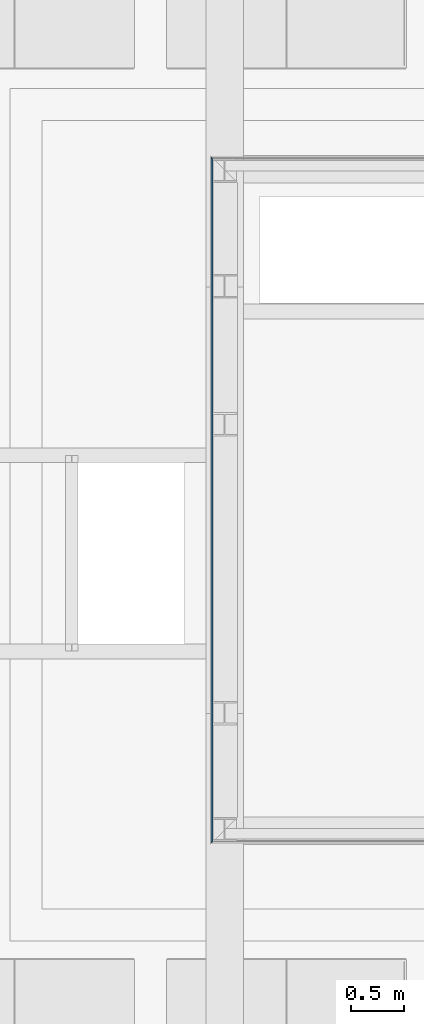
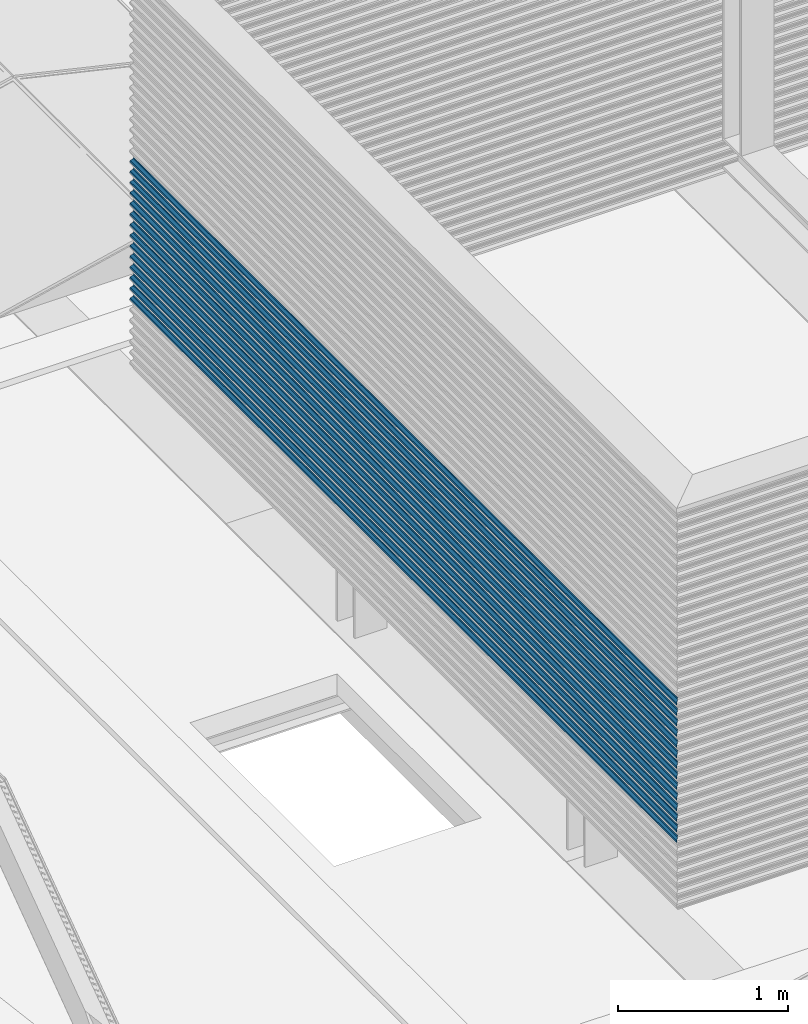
# One storey, part 26 of 63: 14 building element parts, 1 element without a shape of its own.
"""IFC2X3 building model written with IfcOpenShell, lengths in millimetres."""

from ifc_helpers import new_model, entity, si_unit, converted_unit, derived_unit, money_unit, direction, frame, origin_with_axes, place, context, subcontext, project, spatial, faceted_brep, material, type_object, element, aggregate, save


model = new_model("IFC2X3")

# Units and contexts
model_context = context("Model", 3, precision=0.01, world=origin_with_axes(), true_north=direction((0.0, 1.0)))
body_context = subcontext(model_context, "Body", "Model", "MODEL_VIEW")
ifc_project = project(units=[si_unit("LENGTHUNIT", "METRE", prefix="MILLI"), si_unit("AREAUNIT", "SQUARE_METRE"), si_unit("VOLUMEUNIT", "CUBIC_METRE"), converted_unit("PLANEANGLEUNIT", "DEGREE", entity("IfcPlaneAngleMeasure", 0.0174532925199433), si_unit("PLANEANGLEUNIT", "RADIAN"), dimensions=[0, 0, 0, 0, 0, 0, 0]), money_unit("EUR"), converted_unit("TIMEUNIT", "Year", entity("IfcTimeMeasure", 31557600.0), si_unit("TIMEUNIT", "SECOND"), dimensions=[0, 0, 1, 0, 0, 0, 0]), si_unit("MASSUNIT", "GRAM", prefix="KILO"), si_unit("THERMODYNAMICTEMPERATUREUNIT", "DEGREE_CELSIUS"), si_unit("LUMINOUSINTENSITYUNIT", "LUMEN"), si_unit("ENERGYUNIT", "JOULE", prefix="MEGA"), derived_unit("THERMALCONDUCTANCEUNIT", [(si_unit("POWERUNIT", "WATT"), 1), (si_unit("LENGTHUNIT", "METRE"), -1), (si_unit("THERMODYNAMICTEMPERATUREUNIT", "KELVIN"), -1)]), derived_unit("SPECIFICHEATCAPACITYUNIT", [(si_unit("ENERGYUNIT", "JOULE"), 1), (si_unit("MASSUNIT", "GRAM", prefix="KILO"), -1), (si_unit("THERMODYNAMICTEMPERATUREUNIT", "KELVIN"), -1)]), derived_unit("MASSDENSITYUNIT", [(si_unit("MASSUNIT", "GRAM", prefix="KILO"), 1), (si_unit("VOLUMEUNIT", "CUBIC_METRE"), -1)])], contexts=[model_context])

# Site, building, storey
site_placement = place(None, origin_with_axes())
site = spatial("IfcSite", under=ifc_project, at=site_placement, Name="<site naam>", CompositionType="ELEMENT")
building_placement = place(site_placement, origin_with_axes())
building = spatial("IfcBuilding", under=site, at=building_placement, Name="<Naam gebouw>", CompositionType="ELEMENT")
storey_placement = place(building_placement, frame((0.0, 0.0, 12770.0), z_axis=(0.0, 0.0, 1.0), x_axis=(1.0, 0.0, 0.0)))
storey = spatial("IfcBuildingStorey", under=building, at=storey_placement, Name="04 4e verdieping", CompositionType="ELEMENT", Elevation=12770.0)

# Wall, building element parts
wall_type = type_object("IfcWallType", Name="Gevelbeplating golf 18 x 2900", PredefinedType="NOTDEFINED")
wall_placement = place(storey_placement, frame((15871.99992141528, 13218.00009009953, 299.9552842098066), z_axis=(0.0, 0.0, 1.0), x_axis=(0.0, -1.0, 0.0)))
wall = element("IfcWall", 1, at=wall_placement, inside=storey, type_object=wall_type, Name="47_Binnenwand_Gevelbeplating")
ifc_material = material(Name="gevelafwerking type 3 - Aluminium RAL1036")
building_element_part_1_placement = place(wall_placement, origin_with_axes())
building_element_part_1 = element("IfcBuildingElementPart", 2, at=building_element_part_1_placement, material=ifc_material, Name="gevelafwerking type 3 - Aluminium RAL1036", context=body_context, shape_type="Brep", body=[
    faceted_brep([(15.62925096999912, 15.6292509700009, 521.315511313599), (17.99998809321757, 17.9999880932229, 532.0), (6418.000180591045, 17.9999880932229, 532.0), (6420.370917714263, 15.6292509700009, 521.315511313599), (17.99998809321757, 16.99998571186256, 532.0), (15.62925096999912, 14.54420958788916, 521.315511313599), (15.69999191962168, 14.77518518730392, 521.6343281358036), (6418.000180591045, 16.99998571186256, 532.0), (6420.370917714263, 14.54420958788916, 521.315511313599), (6420.30017676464, 14.77518518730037, 521.6343281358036), (9.041571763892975, 9.041571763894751, 512.5758788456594), (6426.958596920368, 9.041571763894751, 512.5758788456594), (9.041571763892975, 8.209525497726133, 512.5758788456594), (9.398124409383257, 8.555240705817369, 513.0489041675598), (6426.602044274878, 8.555240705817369, 513.0489041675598), (6426.958596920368, 8.209525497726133, 512.5758788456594), (3.11646648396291, 3.116466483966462, 504.1123255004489), (6432.8837022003, 3.116466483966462, 504.1123255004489), (3.11646648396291, 2.188213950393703, 504.1123255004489), (3.340125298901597, 2.257346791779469, 504.4318047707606), (6432.66004338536, 2.257346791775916, 504.4318047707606), (6432.8837022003, 2.188213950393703, 504.1123255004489), (0.9999880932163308, 0.9999880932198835, 493.9999999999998), (6435.000180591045, 0.9999880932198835, 493.9999999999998), (0.9999880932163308, -1.190678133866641e-05, 493.9999999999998), (6435.000180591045, -1.190678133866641e-05, 493.9999999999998)], [[[0, 1, 2, 3]], [[4, 1, 0, 5, 6]], [[1, 4, 7, 2]], [[8, 3, 2, 7, 9]], [[10, 0, 3, 11]], [[0, 10, 12, 13, 5]], [[5, 13, 14, 8, 9, 6]], [[4, 6, 9, 7]], [[15, 11, 3, 8, 14]], [[16, 10, 11, 17]], [[10, 16, 18, 19, 12]], [[12, 19, 20, 15, 14, 13]], [[21, 17, 11, 15, 20]], [[22, 16, 17, 23]], [[16, 22, 24, 18]], [[18, 24, 25, 21, 20, 19]], [[25, 23, 17, 21]], [[24, 22, 23, 25]]]),
])
building_element_part_2_placement = place(wall_placement, origin_with_axes())
building_element_part_2 = element("IfcBuildingElementPart", 3, at=building_element_part_2_placement, material=ifc_material, Name="gevelafwerking type 3 - Aluminium RAL1036", context=body_context, shape_type="Brep", body=[
    faceted_brep([(15.62924858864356, 15.62924858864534, 597.3155113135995), (17.99998571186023, 17.99998571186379, 608.0000000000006), (6418.000182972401, 17.99998571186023, 608.0000000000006), (6420.370920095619, 15.62924858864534, 597.3155113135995), (17.99998571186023, 16.99998333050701, 608.0000000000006), (15.62924858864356, 14.54421908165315, 597.3155113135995), (15.69998590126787, 14.77518280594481, 597.6343117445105), (6418.000182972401, 16.99998333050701, 608.0000000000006), (6420.300182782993, 14.77518280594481, 597.6343117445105), (6420.370920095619, 14.54421908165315, 597.3155113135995), (9.041569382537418, 9.041569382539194, 588.5758788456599), (6426.958599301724, 9.041569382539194, 588.5758788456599), (9.041569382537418, 8.20953509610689, 588.5758788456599), (9.398109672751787, 8.555238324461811, 589.0488877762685), (6426.602059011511, 8.555238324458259, 589.0488877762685), (6426.958599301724, 8.20953509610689, 588.5758788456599), (3.116464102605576, 3.116464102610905, 580.1123255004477), (6432.883704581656, 3.116464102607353, 580.1123255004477), (3.116464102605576, 2.188215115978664, 580.1123255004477), (3.340111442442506, 2.257344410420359, 580.4317883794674), (6432.660057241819, 2.257344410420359, 580.4317883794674), (6432.883704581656, 2.188215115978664, 580.1123255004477), (0.9999857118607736, 0.9999857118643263, 570.0000000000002), (6435.000182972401, 0.9999857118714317, 570.0000000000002), (0.9999857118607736, -1.428813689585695e-05, 570.0000000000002), (6435.000182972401, -1.428813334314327e-05, 570.0000000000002)], [[[0, 1, 2, 3]], [[4, 1, 0, 5, 6]], [[1, 4, 7, 2]], [[3, 2, 7, 8, 9]], [[10, 0, 3, 11]], [[0, 10, 12, 13, 5]], [[5, 13, 14, 9, 8, 6]], [[4, 6, 8, 7]], [[11, 3, 9, 14, 15]], [[16, 10, 11, 17]], [[10, 16, 18, 19, 12]], [[12, 19, 20, 15, 14, 13]], [[17, 11, 15, 20, 21]], [[22, 16, 17, 23]], [[16, 22, 24, 18]], [[18, 24, 25, 21, 20, 19]], [[23, 17, 21, 25]], [[24, 22, 23, 25]]]),
])
building_element_part_3_placement = place(wall_placement, origin_with_axes())
building_element_part_3 = element("IfcBuildingElementPart", 4, at=building_element_part_3_placement, material=ifc_material, Name="gevelafwerking type 3 - Aluminium RAL1036", context=body_context, shape_type="Brep", body=[
    faceted_brep([(15.62924382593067, 15.62924382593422, 749.3155113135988), (17.99998094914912, 17.99998094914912, 759.9999999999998), (6418.000187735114, 17.99998094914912, 759.9999999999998), (6420.370924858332, 15.62924382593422, 749.3155113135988), (17.99998094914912, 16.99997856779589, 759.9999999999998), (15.62924382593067, 14.54420676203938, 749.3155113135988), (15.6999834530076, 14.77517804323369, 749.6343221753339), (6418.000187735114, 16.99997856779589, 759.9999999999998), (6420.300185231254, 14.77517804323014, 749.6343221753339), (6420.370924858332, 14.54420676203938, 749.3155113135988), (9.041564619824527, 9.04156461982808, 740.5758788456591), (6426.958604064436, 9.04156461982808, 740.5758788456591), (9.041564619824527, 8.209522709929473, 740.5758788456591), (9.398112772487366, 8.555233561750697, 741.0488982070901), (6426.602055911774, 8.555233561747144, 741.0488982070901), (6426.958604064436, 8.209522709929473, 740.5758788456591), (3.116459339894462, 3.116459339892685, 732.1123255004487), (6432.883709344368, 3.116459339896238, 732.1123255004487), (3.116459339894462, 2.188208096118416, 732.1123255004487), (3.340113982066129, 2.257339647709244, 732.4317988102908), (6432.660054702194, 2.257339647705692, 732.4317988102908), (6432.883709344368, 2.188208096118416, 732.1123255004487), (0.9999809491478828, 0.9999809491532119, 721.9999999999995), (6435.000187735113, 0.9999809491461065, 721.9999999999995), (0.9999809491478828, -1.905084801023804e-05, 721.9999999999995), (6435.000187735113, -1.905085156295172e-05, 721.9999999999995)], [[[0, 1, 2, 3]], [[4, 1, 0, 5, 6]], [[1, 4, 7, 2]], [[3, 2, 7, 8, 9]], [[10, 0, 3, 11]], [[0, 10, 12, 13, 5]], [[5, 13, 14, 9, 8, 6]], [[4, 6, 8, 7]], [[11, 3, 9, 14, 15]], [[16, 10, 11, 17]], [[10, 16, 18, 19, 12]], [[12, 19, 20, 15, 14, 13]], [[17, 11, 15, 20, 21]], [[22, 16, 17, 23]], [[16, 22, 24, 18]], [[18, 24, 25, 21, 20, 19]], [[23, 17, 21, 25]], [[24, 22, 23, 25]]]),
])
building_element_part_4_placement = place(wall_placement, origin_with_axes())
building_element_part_4 = element("IfcBuildingElementPart", 5, at=building_element_part_4_placement, material=ifc_material, Name="gevelafwerking type 3 - Aluminium RAL1036", context=body_context, shape_type="Brep", body=[
    faceted_brep([(15.62924144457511, 15.62924144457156, 825.3155113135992), (17.99997856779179, 17.99997856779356, 836.0000000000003), (6418.00019011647, 17.99997856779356, 836.0000000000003), (6420.370927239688, 15.62924144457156, 825.3155113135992), (17.99997856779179, 16.99997618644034, 836.0000000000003), (15.62924144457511, 14.54421625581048, 825.3155113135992), (15.69997743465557, 14.77517566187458, 825.6343057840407), (6418.00019011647, 16.99997618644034, 836.0000000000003), (6420.300191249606, 14.77517566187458, 825.6343057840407), (6420.370927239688, 14.54421625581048, 825.3155113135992), (9.04156223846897, 9.041562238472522, 816.5758788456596), (6426.958606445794, 9.041562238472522, 816.5758788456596), (9.04156223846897, 8.209532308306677, 816.5758788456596), (9.398098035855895, 8.555231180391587, 817.048881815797), (6426.602070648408, 8.555231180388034, 817.048881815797), (6426.958606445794, 8.209532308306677, 816.5758788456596), (3.116456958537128, 3.116456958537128, 808.1123255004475), (6432.883711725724, 3.116456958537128, 808.1123255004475), (3.116456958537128, 2.188209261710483, 808.1123255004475), (3.340100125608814, 2.257337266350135, 808.4317824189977), (6432.660068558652, 2.257337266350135, 808.4317824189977), (6432.883711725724, 2.188209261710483, 808.1123255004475), (0.9999785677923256, 0.9999785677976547, 798.0), (6435.00019011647, 0.9999785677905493, 798.0), (0.9999785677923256, -2.143220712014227e-05, 798.0), (6435.00019011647, -2.143220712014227e-05, 798.0)], [[[0, 1, 2, 3]], [[4, 1, 0, 5, 6]], [[1, 4, 7, 2]], [[3, 2, 7, 8, 9]], [[10, 0, 3, 11]], [[0, 10, 12, 13, 5]], [[5, 13, 14, 9, 8, 6]], [[4, 6, 8, 7]], [[11, 3, 9, 14, 15]], [[16, 10, 11, 17]], [[10, 16, 18, 19, 12]], [[12, 19, 20, 15, 14, 13]], [[17, 11, 15, 20, 21]], [[22, 16, 17, 23]], [[16, 22, 24, 18]], [[18, 24, 25, 21, 20, 19]], [[23, 17, 21, 25]], [[24, 22, 23, 25]]]),
])
building_element_part_5_placement = place(wall_placement, origin_with_axes())
building_element_part_5 = element("IfcBuildingElementPart", 6, at=building_element_part_5_placement, material=ifc_material, Name="gevelafwerking type 3 - Aluminium RAL1036", context=body_context, shape_type="Brep", body=[
    faceted_brep([(15.62924620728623, 15.62924620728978, 673.3155113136), (17.99998333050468, 17.99998333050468, 683.9999999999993), (6418.000185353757, 17.99998333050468, 683.9999999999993), (6420.370922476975, 15.62924620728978, 673.3155113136), (17.99998333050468, 16.99998094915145, 683.9999999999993), (15.62924620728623, 14.54422857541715, 673.3155113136), (15.6999798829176, 14.77518042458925, 673.6342953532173), (6418.000185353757, 16.99998094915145, 683.9999999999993), (6420.370922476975, 14.54422857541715, 673.3155113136), (6420.300188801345, 14.77518042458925, 673.6342953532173), (9.04156700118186, 9.041567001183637, 664.5758788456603), (6426.958601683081, 9.041567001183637, 664.5758788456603), (9.04156700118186, 8.209544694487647, 664.5758788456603), (9.398094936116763, 8.555235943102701, 665.0488713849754), (6426.602073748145, 8.555235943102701, 665.0488713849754), (6426.958601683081, 8.209544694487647, 664.5758788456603), (3.116461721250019, 3.116461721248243, 656.1123255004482), (6432.883706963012, 3.116461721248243, 656.1123255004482), (3.116461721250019, 2.188216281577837, 656.1123255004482), (3.340097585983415, 2.257342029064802, 656.4317719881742), (6432.660071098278, 2.257342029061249, 656.4317719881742), (6432.883706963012, 2.188216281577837, 656.1123255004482), (0.9999833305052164, 0.9999833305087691, 645.999999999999), (6435.000185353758, 0.9999833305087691, 645.999999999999), (0.9999833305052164, -1.66694924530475e-05, 645.999999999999), (6435.000185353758, -1.666949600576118e-05, 645.999999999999)], [[[0, 1, 2, 3]], [[4, 1, 0, 5, 6]], [[1, 4, 7, 2]], [[8, 3, 2, 7, 9]], [[10, 0, 3, 11]], [[0, 10, 12, 13, 5]], [[5, 13, 14, 8, 9, 6]], [[4, 6, 9, 7]], [[15, 11, 3, 8, 14]], [[16, 10, 11, 17]], [[10, 16, 18, 19, 12]], [[12, 19, 20, 15, 14, 13]], [[21, 17, 11, 15, 20]], [[22, 16, 17, 23]], [[16, 22, 24, 18]], [[18, 24, 25, 21, 20, 19]], [[25, 23, 17, 21]], [[24, 22, 23, 25]]]),
])
building_element_part_6_placement = place(wall_placement, origin_with_axes())
building_element_part_6 = element("IfcBuildingElementPart", 7, at=building_element_part_6_placement, material=ifc_material, Name="gevelafwerking type 3 - Aluminium RAL1036", context=body_context, shape_type="Brep", body=[
    faceted_brep([(15.62923430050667, 15.62923430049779, 1053.315511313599), (17.99997142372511, 17.99997142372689, 1064.0), (6418.000197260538, 17.99997142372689, 1064.0), (6420.370934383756, 15.62923430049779, 1053.315511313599), (17.99997142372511, 16.99996904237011, 1064.0), (15.62923430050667, 14.54421342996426, 1053.315511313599), (15.69996896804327, 14.77516851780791, 1053.634299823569), (6418.000197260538, 16.99996904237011, 1064.0), (6420.370934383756, 14.54421342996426, 1053.315511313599), (6420.300199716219, 14.77516851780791, 1053.634299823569), (9.041555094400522, 9.041555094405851, 1044.575878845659), (6426.958613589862, 9.041555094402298, 1044.575878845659), (9.041555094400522, 8.209529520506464, 1044.575878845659), (9.398086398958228, 8.555224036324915, 1045.048875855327), (6426.602082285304, 8.555224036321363, 1045.048875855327), (6426.958613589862, 8.209529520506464, 1044.575878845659), (3.11644981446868, 3.116449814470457, 1036.112325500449), (6432.883718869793, 3.116449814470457, 1036.112325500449), (3.11644981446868, 2.188203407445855, 1036.112325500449), (3.340088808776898, 2.257330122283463, 1036.431776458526), (6432.660079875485, 2.257330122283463, 1036.431776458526), (6432.883718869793, 2.188203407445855, 1036.112325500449), (0.9999714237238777, 0.9999714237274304, 1026.0), (6435.000197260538, 0.9999714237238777, 1026.0), (0.9999714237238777, -2.85762737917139e-05, 1026.0), (6435.000197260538, -2.85762737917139e-05, 1026.0)], [[[0, 1, 2, 3]], [[4, 1, 0, 5, 6]], [[1, 4, 7, 2]], [[8, 3, 2, 7, 9]], [[10, 0, 3, 11]], [[0, 10, 12, 13, 5]], [[5, 13, 14, 8, 9, 6]], [[4, 6, 9, 7]], [[15, 11, 3, 8, 14]], [[16, 10, 11, 17]], [[10, 16, 18, 19, 12]], [[12, 19, 20, 15, 14, 13]], [[21, 17, 11, 15, 20]], [[22, 16, 17, 23]], [[16, 22, 24, 18]], [[18, 24, 25, 21, 20, 19]], [[25, 23, 17, 21]], [[24, 22, 23, 25]]]),
])
building_element_part_7_placement = place(wall_placement, origin_with_axes())
building_element_part_7 = element("IfcBuildingElementPart", 8, at=building_element_part_7_placement, material=ifc_material, Name="gevelafwerking type 3 - Aluminium RAL1036", context=body_context, shape_type="Brep", body=[
    faceted_brep([(15.62923668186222, 15.629236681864, 977.3155113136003), (17.99997380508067, 17.99997380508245, 987.9999999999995), (6418.000194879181, 17.99997380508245, 987.9999999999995), (6420.3709320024, 15.62923668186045, 977.3155113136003), (17.99997380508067, 16.99997142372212, 987.9999999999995), (15.62923668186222, 14.54420393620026, 977.3155113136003), (15.69997498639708, 14.77517089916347, 977.6343162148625), (6418.000194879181, 16.99997142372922, 987.9999999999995), (6420.300193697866, 14.77517089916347, 977.6343162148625), (6420.3709320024, 14.54420393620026, 977.3155113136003), (9.041557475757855, 9.041557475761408, 968.5758788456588), (6426.958611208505, 9.041557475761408, 968.5758788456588), (9.041557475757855, 8.209519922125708, 968.5758788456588), (9.398101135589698, 8.55522641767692, 969.0488922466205), (6426.602067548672, 8.55522641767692, 969.0488922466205), (6426.958611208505, 8.209519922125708, 968.5758788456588), (3.116452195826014, 3.116452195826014, 960.1123255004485), (6432.883716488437, 3.116452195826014, 960.1123255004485), (3.116452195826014, 2.188202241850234, 960.1123255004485), (3.340102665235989, 2.25733250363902, 960.4317928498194), (6432.660066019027, 2.25733250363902, 960.4317928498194), (6432.883716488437, 2.188202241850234, 960.1123255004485), (0.9999738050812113, 0.9999738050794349, 949.9999999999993), (6435.000194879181, 0.9999738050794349, 949.9999999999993), (0.9999738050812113, -2.619491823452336e-05, 949.9999999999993), (6435.000194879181, -2.619491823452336e-05, 949.9999999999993)], [[[0, 1, 2, 3]], [[4, 1, 0, 5, 6]], [[1, 4, 7, 2]], [[3, 2, 7, 8, 9]], [[10, 0, 3, 11]], [[0, 10, 12, 13, 5]], [[5, 13, 14, 9, 8, 6]], [[4, 6, 8, 7]], [[11, 3, 9, 14, 15]], [[16, 10, 11, 17]], [[10, 16, 18, 19, 12]], [[12, 19, 20, 15, 14, 13]], [[17, 11, 15, 20, 21]], [[22, 16, 17, 23]], [[16, 22, 24, 18]], [[18, 24, 25, 21, 20, 19]], [[23, 17, 21, 25]], [[24, 22, 23, 25]]]),
])
building_element_part_8_placement = place(wall_placement, origin_with_axes())
building_element_part_8 = element("IfcBuildingElementPart", 9, at=building_element_part_8_placement, material=ifc_material, Name="gevelafwerking type 3 - Aluminium RAL1036", context=body_context, shape_type="Brep", body=[
    faceted_brep([(15.62923191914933, 15.62923191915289, 1205.3155113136), (17.99996904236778, 17.99996904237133, 1215.999999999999), (6418.000199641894, 17.99996904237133, 1215.999999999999), (6420.370936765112, 15.62923191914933, 1205.3155113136), (17.99996904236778, 16.99996666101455, 1215.999999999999), (15.62923191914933, 14.5442034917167, 1205.3155113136), (15.69996890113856, 14.77516613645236, 1205.634310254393), (6418.000199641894, 16.99996666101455, 1215.999999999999), (6420.300199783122, 14.77516613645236, 1205.634310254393), (6420.370936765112, 14.54420349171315, 1205.3155113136), (9.041552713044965, 9.041552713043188, 1196.575878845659), (6426.958615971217, 9.041552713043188, 1196.575878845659), (9.041552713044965, 8.2095195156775, 1196.575878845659), (9.39809188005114, 8.555221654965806, 1197.048886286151), (6426.602076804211, 8.555221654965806, 1197.048886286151), (6426.958615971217, 8.2095195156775, 1196.575878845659), (3.116447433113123, 3.116447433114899, 1188.112325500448), (6432.883721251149, 3.116447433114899, 1188.112325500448), (3.116447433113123, 2.188198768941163, 1188.112325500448), (3.34009372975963, 2.257327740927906, 1188.43178688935), (6432.660074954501, 2.257327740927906, 1188.43178688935), (6432.883721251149, 2.188198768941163, 1188.112325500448), (0.9999690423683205, 0.9999690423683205, 1177.999999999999), (6435.000199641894, 0.9999690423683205, 1177.999999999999), (0.9999690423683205, -3.095762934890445e-05, 1177.999999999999), (6435.000199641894, -3.095762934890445e-05, 1177.999999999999)], [[[0, 1, 2, 3]], [[4, 1, 0, 5, 6]], [[1, 4, 7, 2]], [[3, 2, 7, 8, 9]], [[10, 0, 3, 11]], [[0, 10, 12, 13, 5]], [[5, 13, 14, 9, 8, 6]], [[4, 6, 8, 7]], [[11, 3, 9, 14, 15]], [[16, 10, 11, 17]], [[10, 16, 18, 19, 12]], [[12, 19, 20, 15, 14, 13]], [[17, 11, 15, 20, 21]], [[22, 16, 17, 23]], [[16, 22, 24, 18]], [[18, 24, 25, 21, 20, 19]], [[23, 17, 21, 25]], [[24, 22, 23, 25]]]),
])
building_element_part_9_placement = place(wall_placement, origin_with_axes())
building_element_part_9 = element("IfcBuildingElementPart", 10, at=building_element_part_9_placement, material=ifc_material, Name="gevelafwerking type 3 - Aluminium RAL1036", context=body_context, shape_type="Brep", body=[
    faceted_brep([(15.62923191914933, 15.62923191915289, 1129.315511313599), (17.99996904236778, 17.99996904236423, 1139.999999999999), (6418.000199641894, 17.99996904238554, 1139.999999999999), (6420.370936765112, 15.62923191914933, 1129.315511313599), (17.99996904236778, 16.999966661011, 1139.999999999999), (15.62923191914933, 14.54419161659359, 1129.315511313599), (15.69997253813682, 14.77516613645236, 1129.634326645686), (6418.000199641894, 16.99996666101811, 1139.999999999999), (6420.300196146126, 14.77516613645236, 1129.634326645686), (6420.370936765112, 14.54419161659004, 1129.315511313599), (9.041552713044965, 9.041552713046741, 1120.57587884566), (6426.958615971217, 9.041552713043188, 1120.57587884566), (9.041552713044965, 8.209507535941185, 1120.57587884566), (9.398104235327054, 8.555221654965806, 1121.048902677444), (6426.602064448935, 8.555221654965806, 1121.048902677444), (6426.958615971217, 8.209507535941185, 1120.57587884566), (3.116447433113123, 3.116447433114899, 1112.112325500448), (6432.883721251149, 3.116447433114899, 1112.112325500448), (3.116447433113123, 2.188195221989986, 1112.112325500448), (3.340105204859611, 2.257327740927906, 1112.431803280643), (6432.660063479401, 2.257327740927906, 1112.431803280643), (6432.883721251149, 2.188195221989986, 1112.112325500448), (0.9999690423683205, 0.9999690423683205, 1102.0), (6435.000199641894, 0.9999690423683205, 1102.0), (0.9999690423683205, -3.095762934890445e-05, 1102.0), (6435.000199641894, -3.095762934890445e-05, 1102.0)], [[[0, 1, 2, 3]], [[4, 1, 0, 5, 6]], [[1, 4, 7, 2]], [[3, 2, 7, 8, 9]], [[10, 0, 3, 11]], [[0, 10, 12, 13, 5]], [[5, 13, 14, 9, 8, 6]], [[4, 6, 8, 7]], [[11, 3, 9, 14, 15]], [[16, 10, 11, 17]], [[10, 16, 18, 19, 12]], [[12, 19, 20, 15, 14, 13]], [[17, 11, 15, 20, 21]], [[22, 16, 17, 23]], [[16, 22, 24, 18]], [[18, 24, 25, 21, 20, 19]], [[23, 17, 21, 25]], [[24, 22, 23, 25]]]),
])
building_element_part_10_placement = place(wall_placement, origin_with_axes())
building_element_part_10 = element("IfcBuildingElementPart", 11, at=building_element_part_10_placement, material=ifc_material, Name="gevelafwerking type 3 - Aluminium RAL1036", context=body_context, shape_type="Brep", body=[
    faceted_brep([(15.62922953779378, 15.62922953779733, 1281.315511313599), (17.99996666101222, 17.99996666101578, 1292.0), (6418.00020202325, 17.99996666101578, 1292.0), (6420.370939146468, 15.62922953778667, 1281.315511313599), (17.99996666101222, 16.999964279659, 1292.0), (15.62922953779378, 14.5442129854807, 1281.315511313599), (15.6999628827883, 14.7751637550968, 1281.6342938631), (6418.00020202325, 16.99996427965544, 1292.0), (6420.370939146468, 14.5442129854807, 1281.315511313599), (6420.300205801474, 14.7751637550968, 1281.6342938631), (9.041550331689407, 9.041550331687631, 1272.575878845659), (6426.958618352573, 9.041550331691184, 1272.575878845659), (9.041550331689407, 8.209497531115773, 1272.575878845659), (9.398109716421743, 8.555219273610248, 1273.048913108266), (6426.602058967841, 8.555219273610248, 1273.048913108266), (6426.958618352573, 8.209497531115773, 1272.575878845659), (3.116445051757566, 3.116445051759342, 1264.112325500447), (6432.883723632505, 3.116445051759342, 1264.112325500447), (3.116445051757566, 2.18819993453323, 1264.112325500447), (3.340079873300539, 2.257325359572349, 1264.431770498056), (6432.660088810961, 2.257325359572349, 1264.431770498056), (6432.883723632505, 2.18819993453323, 1264.112325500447), (0.9999666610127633, 0.9999666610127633, 1254.0), (6435.00020202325, 0.9999666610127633, 1254.0), (0.9999666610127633, -3.333898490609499e-05, 1254.0), (6435.00020202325, -3.333898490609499e-05, 1254.0)], [[[0, 1, 2, 3]], [[4, 1, 0, 5, 6]], [[1, 4, 7, 2]], [[8, 3, 2, 7, 9]], [[10, 0, 3, 11]], [[0, 10, 12, 13, 5]], [[5, 13, 14, 8, 9, 6]], [[4, 6, 9, 7]], [[15, 11, 3, 8, 14]], [[16, 10, 11, 17]], [[10, 16, 18, 19, 12]], [[12, 19, 20, 15, 14, 13]], [[21, 17, 11, 15, 20]], [[22, 16, 17, 23]], [[16, 22, 24, 18]], [[18, 24, 25, 21, 20, 19]], [[25, 23, 17, 21]], [[24, 22, 23, 25]]]),
])
building_element_part_11_placement = place(wall_placement, origin_with_axes())
building_element_part_11 = element("IfcBuildingElementPart", 12, at=building_element_part_11_placement, material=ifc_material, Name="gevelafwerking type 3 - Aluminium RAL1036", context=body_context, shape_type="Brep", body=[
    faceted_brep([(15.62923906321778, 15.62923906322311, 901.3155113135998), (17.99997618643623, 17.999976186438, 911.9999999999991), (6418.000192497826, 17.999976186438, 911.9999999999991), (6420.370929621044, 15.6292390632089, 901.3155113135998), (17.99997618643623, 16.99997380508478, 911.9999999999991), (15.62923906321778, 14.54419444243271, 901.3155113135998), (15.69998100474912, 14.77517328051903, 901.6343326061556), (6418.000192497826, 16.99997380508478, 911.9999999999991), (6420.300187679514, 14.77517328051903, 901.6343326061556), (6420.370929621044, 14.54419444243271, 901.3155113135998), (9.041559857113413, 9.041559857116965, 892.5758788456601), (6426.958608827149, 9.041559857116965, 892.5758788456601), (9.041559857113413, 8.209510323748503, 892.5758788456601), (9.398115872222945, 8.55522879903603, 893.0489086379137), (6426.602052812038, 8.55522879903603, 893.0489086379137), (6426.958608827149, 8.209510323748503, 892.5758788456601), (3.116454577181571, 3.116454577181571, 884.1123255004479), (6432.883714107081, 3.116454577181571, 884.1123255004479), (3.116454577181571, 2.188201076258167, 884.1123255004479), (3.340116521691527, 2.257334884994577, 884.4318092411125), (6432.660052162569, 2.257334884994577, 884.4318092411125), (6432.883714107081, 2.188201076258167, 884.1123255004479), (0.9999761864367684, 0.9999761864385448, 874.0000000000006), (6435.000192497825, 0.9999761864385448, 874.0000000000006), (0.9999761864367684, -2.381356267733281e-05, 874.0000000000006), (6435.000192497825, -2.381356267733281e-05, 874.0000000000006)], [[[0, 1, 2, 3]], [[4, 1, 0, 5, 6]], [[1, 4, 7, 2]], [[3, 2, 7, 8, 9]], [[10, 0, 3, 11]], [[0, 10, 12, 13, 5]], [[5, 13, 14, 9, 8, 6]], [[4, 6, 8, 7]], [[11, 3, 9, 14, 15]], [[16, 10, 11, 17]], [[10, 16, 18, 19, 12]], [[12, 19, 20, 15, 14, 13]], [[17, 11, 15, 20, 21]], [[22, 16, 17, 23]], [[16, 22, 24, 18]], [[18, 24, 25, 21, 20, 19]], [[23, 17, 21, 25]], [[24, 22, 23, 25]]]),
])
building_element_part_12_placement = place(wall_placement, origin_with_axes())
building_element_part_12 = element("IfcBuildingElementPart", 13, at=building_element_part_12_placement, material=ifc_material, Name="gevelafwerking type 3 - Aluminium RAL1036", context=body_context, shape_type="Brep", body=[
    faceted_brep([(15.62922477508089, 15.62922477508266, 1433.3155113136), (17.99996189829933, 17.99996189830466, 1443.999999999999), (6418.000206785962, 17.99996189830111, 1443.999999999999), (6420.37094390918, 15.62922477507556, 1433.3155113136), (17.99996189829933, 16.99995951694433, 1443.999999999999), (15.62922477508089, 14.54420066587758, 1433.3155113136), (15.69996043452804, 14.77515899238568, 1433.634304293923), (6418.000206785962, 16.99995951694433, 1443.999999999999), (6420.300208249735, 14.77515899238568, 1433.634304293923), (6420.37094390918, 14.54420066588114, 1433.3155113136), (9.041545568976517, 9.041545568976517, 1424.575878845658), (6426.958623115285, 9.041545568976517, 1424.575878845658), (9.041545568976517, 8.209516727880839, 1424.575878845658), (9.398080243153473, 8.555214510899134, 1425.048880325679), (6426.602088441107, 8.555214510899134, 1425.048880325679), (6426.958623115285, 8.209516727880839, 1424.575878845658), (3.116440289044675, 3.116440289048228, 1416.112325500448), (6432.883728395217, 3.116440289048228, 1416.112325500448), (3.116440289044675, 2.188192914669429, 1416.112325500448), (3.340082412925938, 2.257320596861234, 1416.43178092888), (6432.660086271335, 2.257320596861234, 1416.43178092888), (6432.883728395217, 2.188192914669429, 1416.112325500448), (0.9999618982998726, 0.9999618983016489, 1406.000000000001), (6435.000206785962, 0.9999618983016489, 1406.000000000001), (0.9999618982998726, -3.810169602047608e-05, 1406.000000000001), (6435.000206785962, -3.810169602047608e-05, 1406.000000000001)], [[[0, 1, 2, 3]], [[4, 1, 0, 5, 6]], [[1, 4, 7, 2]], [[3, 2, 7, 8, 9]], [[10, 0, 3, 11]], [[0, 10, 12, 13, 5]], [[5, 13, 14, 9, 8, 6]], [[4, 6, 8, 7]], [[11, 3, 9, 14, 15]], [[16, 10, 11, 17]], [[10, 16, 18, 19, 12]], [[12, 19, 20, 15, 14, 13]], [[17, 11, 15, 20, 21]], [[22, 16, 17, 23]], [[16, 22, 24, 18]], [[18, 24, 25, 21, 20, 19]], [[23, 17, 21, 25]], [[24, 22, 23, 25]]]),
])
building_element_part_13_placement = place(wall_placement, origin_with_axes())
building_element_part_13 = element("IfcBuildingElementPart", 14, at=building_element_part_13_placement, material=ifc_material, Name="gevelafwerking type 3 - Aluminium RAL1036", context=body_context, shape_type="Brep", body=[
    faceted_brep([(15.62922239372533, 15.6292223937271, 1509.315511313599), (17.99995951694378, 17.999959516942, 1520.0), (6418.000209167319, 17.999959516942, 1520.0), (6420.370946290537, 15.6292223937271, 1509.315511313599), (17.99995951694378, 16.99995713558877, 1520.0), (15.62922239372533, 14.54417885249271, 1509.315511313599), (15.69996400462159, 14.77515661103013, 1509.634331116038), (6418.000209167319, 16.99995713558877, 1520.0), (6420.370946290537, 14.54417885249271, 1509.315511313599), (6420.300204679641, 14.77515661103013, 1509.634331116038), (9.04154318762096, 9.04154318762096, 1500.575878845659), (6426.958625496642, 9.04154318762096, 1500.575878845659), (9.04154318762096, 8.20949474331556, 1500.575878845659), (9.398098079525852, 8.555212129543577, 1501.048907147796), (6426.602070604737, 8.555212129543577, 1501.048907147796), (6426.958625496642, 8.20949474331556, 1500.575878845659), (3.116437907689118, 3.116437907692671, 1492.112325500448), (6432.883730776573, 3.116437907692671, 1492.112325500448), (3.116437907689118, 2.188184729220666, 1492.112325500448), (3.340098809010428, 2.257318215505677, 1492.431807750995), (6432.660069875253, 2.257318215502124, 1492.431807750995), (6432.883730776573, 2.188184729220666, 1492.112325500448), (0.9999595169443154, 0.9999595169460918, 1481.999999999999), (6435.000209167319, 0.9999595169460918, 1481.999999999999), (0.9999595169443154, -4.048305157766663e-05, 1481.999999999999), (6435.000209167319, -4.048305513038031e-05, 1481.999999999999)], [[[0, 1, 2, 3]], [[4, 1, 0, 5, 6]], [[1, 4, 7, 2]], [[8, 3, 2, 7, 9]], [[10, 0, 3, 11]], [[0, 10, 12, 13, 5]], [[5, 13, 14, 8, 9, 6]], [[4, 6, 9, 7]], [[15, 11, 3, 8, 14]], [[16, 10, 11, 17]], [[10, 16, 18, 19, 12]], [[12, 19, 20, 15, 14, 13]], [[21, 17, 11, 15, 20]], [[22, 16, 17, 23]], [[16, 22, 24, 18]], [[18, 24, 25, 21, 20, 19]], [[25, 23, 17, 21]], [[24, 22, 23, 25]]]),
])
building_element_part_14_placement = place(wall_placement, origin_with_axes())
building_element_part_14 = element("IfcBuildingElementPart", 15, at=building_element_part_14_placement, material=ifc_material, Name="gevelafwerking type 3 - Aluminium RAL1036", context=body_context, shape_type="Brep", body=[
    faceted_brep([(15.62922715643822, 15.62922715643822, 1357.315511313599), (17.99996427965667, 17.99996427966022, 1368.0), (6418.000204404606, 17.99996427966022, 1368.0), (6420.370941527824, 15.62922715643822, 1357.315511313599), (17.99996427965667, 16.99996189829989, 1368.0), (15.62922715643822, 14.54419117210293, 1357.315511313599), (15.69996645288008, 14.77516137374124, 1357.634320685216), (6418.000204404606, 16.99996189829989, 1368.0), (6420.370941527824, 14.54419117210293, 1357.315511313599), (6420.300202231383, 14.77516137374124, 1357.634320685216), (9.041547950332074, 9.041547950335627, 1348.57587884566), (6426.958620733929, 9.041547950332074, 1348.57587884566), (9.041547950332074, 8.20950712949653, 1348.57587884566), (9.39809497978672, 8.555216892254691, 1349.048896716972), (6426.602073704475, 8.555216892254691, 1349.048896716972), (6426.958620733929, 8.20950712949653, 1348.57587884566), (3.116442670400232, 3.116442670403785, 1340.112325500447), (6432.883726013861, 3.116442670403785, 1340.112325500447), (3.116442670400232, 2.188191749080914, 1340.112325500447), (3.340096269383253, 2.257322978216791, 1340.431797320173), (6432.660072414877, 2.257322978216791, 1340.431797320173), (6432.883726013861, 2.188191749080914, 1340.112325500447), (0.9999642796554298, 0.9999642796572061, 1330.0), (6435.000204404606, 0.9999642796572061, 1330.0), (0.9999642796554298, -3.572034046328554e-05, 1330.0), (6435.000204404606, -3.572034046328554e-05, 1330.0)], [[[0, 1, 2, 3]], [[4, 1, 0, 5, 6]], [[1, 4, 7, 2]], [[8, 3, 2, 7, 9]], [[10, 0, 3, 11]], [[0, 10, 12, 13, 5]], [[5, 13, 14, 8, 9, 6]], [[4, 6, 9, 7]], [[15, 11, 3, 8, 14]], [[16, 10, 11, 17]], [[10, 16, 18, 19, 12]], [[12, 19, 20, 15, 14, 13]], [[21, 17, 11, 15, 20]], [[22, 16, 17, 23]], [[16, 22, 24, 18]], [[18, 24, 25, 21, 20, 19]], [[25, 23, 17, 21]], [[24, 22, 23, 25]]]),
])
aggregate(wall, [building_element_part_1, building_element_part_2, building_element_part_3, building_element_part_4, building_element_part_5, building_element_part_6, building_element_part_7, building_element_part_8, building_element_part_9, building_element_part_10, building_element_part_11, building_element_part_12, building_element_part_13, building_element_part_14])

save(model, "model.ifc")
